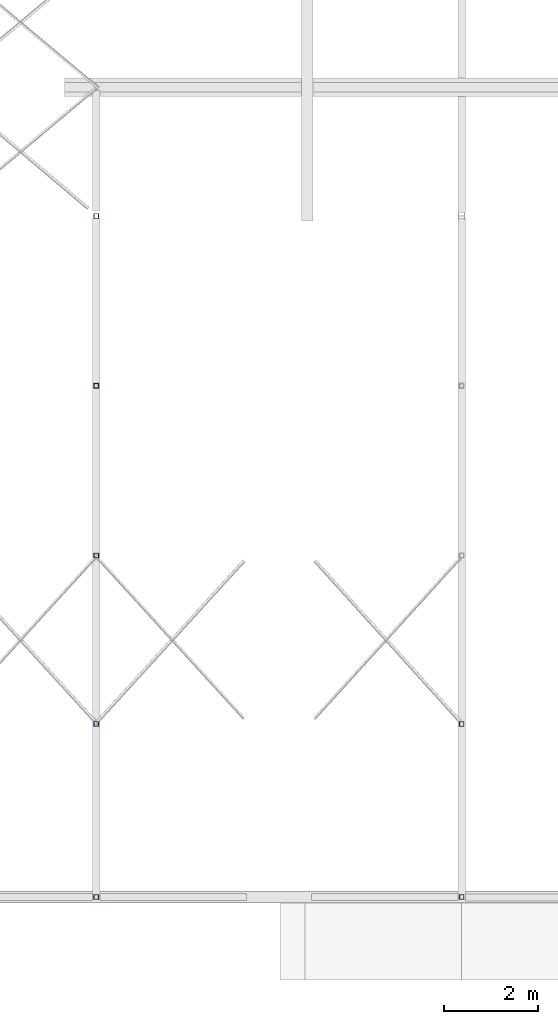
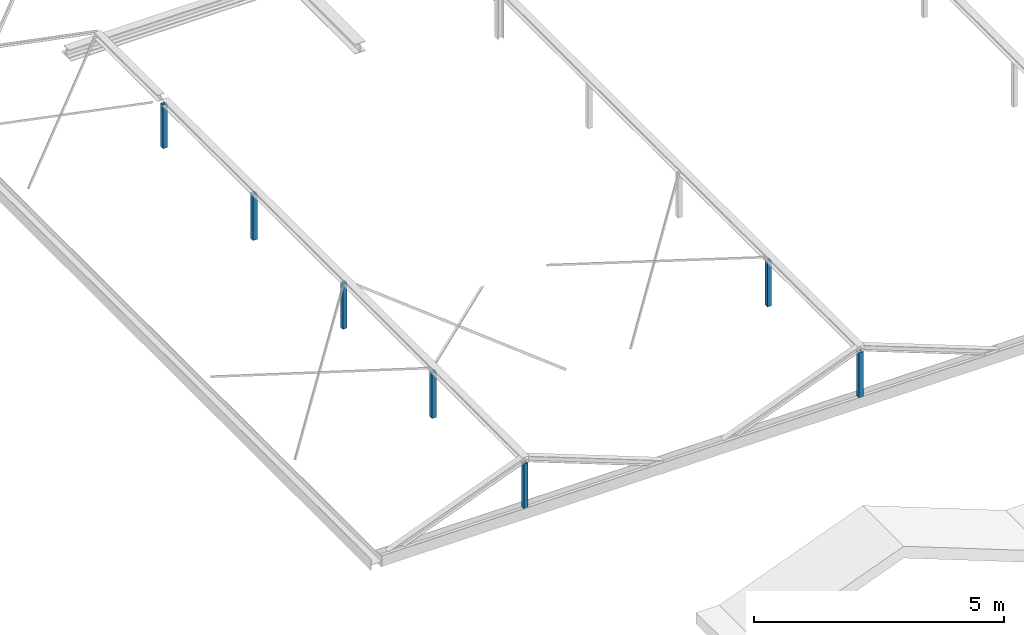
# One storey, part 1 of 10: 7 columns.
"""IFC2X3 building model written with IfcOpenShell, lengths in millimetres."""

from ifc_helpers import new_model, entity, si_unit, converted_unit, derived_unit, direction, frame, origin, place, context, subcontext, project, spatial, polyline, outline, extrude, source, transform, mapped, material, type_object, type_shapes, element, save


model = new_model("IFC2X3")

# Units and contexts
model_context = context("Model", 3, precision=0.01, world=origin(), true_north=direction((6.123031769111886e-17, 1.0)))
body_context = subcontext(model_context, "Body", "Model", "MODEL_VIEW")
ifc_project = project(units=[si_unit("LENGTHUNIT", "METRE", prefix="MILLI"), si_unit("AREAUNIT", "SQUARE_METRE", prefix="MILLI"), si_unit("VOLUMEUNIT", "CUBIC_METRE"), converted_unit("PLANEANGLEUNIT", "DEGREE", entity("IfcPlaneAngleMeasure", 0.017453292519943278), si_unit("PLANEANGLEUNIT", "RADIAN"), dimensions=[0, 0, 0, 0, 0, 0, 0]), si_unit("MASSUNIT", "GRAM", prefix="KILO"), derived_unit("MASSDENSITYUNIT", [(si_unit("MASSUNIT", "GRAM", prefix="KILO"), 1), (si_unit("LENGTHUNIT", "METRE"), -3)]), derived_unit("IONCONCENTRATIONUNIT", [(si_unit("MASSUNIT", "GRAM", prefix="KILO"), 1), (si_unit("LENGTHUNIT", "METRE"), -3)]), derived_unit("MOMENTOFINERTIAUNIT", [(si_unit("LENGTHUNIT", "METRE"), 4)]), si_unit("TIMEUNIT", "SECOND"), si_unit("FREQUENCYUNIT", "HERTZ"), si_unit("THERMODYNAMICTEMPERATUREUNIT", "DEGREE_CELSIUS"), derived_unit("THERMALTRANSMITTANCEUNIT", [(si_unit("MASSUNIT", "GRAM", prefix="KILO"), 1), (si_unit("THERMODYNAMICTEMPERATUREUNIT", "KELVIN"), -1), (si_unit("TIMEUNIT", "SECOND"), -3)]), derived_unit("THERMALCONDUCTANCEUNIT", [(si_unit("MASSUNIT", "GRAM", prefix="KILO"), 1), (si_unit("THERMODYNAMICTEMPERATUREUNIT", "KELVIN"), -1), (si_unit("TIMEUNIT", "SECOND"), -3), (si_unit("LENGTHUNIT", "METRE"), 1)]), derived_unit("VOLUMETRICFLOWRATEUNIT", [(si_unit("LENGTHUNIT", "METRE", prefix="DECI"), 3), (si_unit("TIMEUNIT", "SECOND"), -1)]), derived_unit("MASSFLOWRATEUNIT", [(si_unit("MASSUNIT", "GRAM", prefix="KILO"), 1), (si_unit("TIMEUNIT", "SECOND"), -1)]), derived_unit("ROTATIONALFREQUENCYUNIT", [(si_unit("TIMEUNIT", "SECOND"), -1)]), si_unit("ELECTRICCURRENTUNIT", "AMPERE"), si_unit("ELECTRICVOLTAGEUNIT", "VOLT"), si_unit("POWERUNIT", "WATT"), si_unit("FORCEUNIT", "NEWTON", prefix="KILO"), si_unit("ILLUMINANCEUNIT", "LUX"), si_unit("LUMINOUSFLUXUNIT", "LUMEN"), si_unit("LUMINOUSINTENSITYUNIT", "CANDELA"), si_unit("ENERGYUNIT", "JOULE"), derived_unit("USERDEFINED", [(si_unit("MASSUNIT", "GRAM", prefix="KILO"), -1), (si_unit("LENGTHUNIT", "METRE"), -2), (si_unit("TIMEUNIT", "SECOND"), 3), (si_unit("LUMINOUSFLUXUNIT", "LUMEN"), 1)]), derived_unit("USERDEFINED", [(si_unit("MASSUNIT", "GRAM", prefix="KILO"), 1), (si_unit("TIMEUNIT", "SECOND"), -3), (si_unit("LENGTHUNIT", "METRE"), 3), (si_unit("ELECTRICCURRENTUNIT", "AMPERE"), -2)]), derived_unit("SOUNDPOWERUNIT", [(si_unit("MASSUNIT", "GRAM", prefix="KILO"), 1), (si_unit("TIMEUNIT", "SECOND"), -3), (si_unit("LENGTHUNIT", "METRE"), 2)]), derived_unit("SOUNDPRESSUREUNIT", [(si_unit("MASSUNIT", "GRAM", prefix="KILO"), 1), (si_unit("LENGTHUNIT", "METRE"), -1), (si_unit("TIMEUNIT", "SECOND"), -2)]), derived_unit("LINEARVELOCITYUNIT", [(si_unit("LENGTHUNIT", "METRE"), 1), (si_unit("TIMEUNIT", "SECOND"), -1)]), si_unit("PRESSUREUNIT", "PASCAL"), derived_unit("USERDEFINED", [(si_unit("MASSUNIT", "GRAM", prefix="KILO"), 1), (si_unit("LENGTHUNIT", "METRE"), -2), (si_unit("TIMEUNIT", "SECOND"), -2)]), derived_unit("LINEARFORCEUNIT", [(si_unit("MASSUNIT", "GRAM", prefix="KILO"), 1), (si_unit("TIMEUNIT", "SECOND"), -2)]), derived_unit("PLANARFORCEUNIT", [(si_unit("MASSUNIT", "GRAM", prefix="KILO"), 1), (si_unit("LENGTHUNIT", "METRE"), -1), (si_unit("TIMEUNIT", "SECOND"), -2)]), derived_unit("SPECIFICHEATCAPACITYUNIT", [(si_unit("THERMODYNAMICTEMPERATUREUNIT", "KELVIN"), -1), (si_unit("LENGTHUNIT", "METRE"), 2), (si_unit("TIMEUNIT", "SECOND"), -2)]), derived_unit("HEATFLUXDENSITYUNIT", [(si_unit("MASSUNIT", "GRAM", prefix="KILO"), 1), (si_unit("TIMEUNIT", "SECOND"), -3)]), derived_unit("HEATINGVALUEUNIT", [(si_unit("LENGTHUNIT", "METRE"), 2), (si_unit("TIMEUNIT", "SECOND"), -2)]), derived_unit("VAPORPERMEABILITYUNIT", [(si_unit("LENGTHUNIT", "METRE"), -1), (si_unit("TIMEUNIT", "SECOND"), 1)]), derived_unit("DYNAMICVISCOSITYUNIT", [(si_unit("MASSUNIT", "GRAM", prefix="KILO"), 1), (si_unit("TIMEUNIT", "SECOND"), -1), (si_unit("LENGTHUNIT", "METRE"), -1)]), derived_unit("THERMALEXPANSIONCOEFFICIENTUNIT", [(si_unit("THERMODYNAMICTEMPERATUREUNIT", "KELVIN"), -1)]), derived_unit("MODULUSOFELASTICITYUNIT", [(si_unit("MASSUNIT", "GRAM", prefix="KILO"), 1), (si_unit("LENGTHUNIT", "METRE"), -1), (si_unit("TIMEUNIT", "SECOND"), -2)]), derived_unit("ISOTHERMALMOISTURECAPACITYUNIT", [(si_unit("MASSUNIT", "GRAM", prefix="KILO"), -1), (si_unit("LENGTHUNIT", "METRE"), 3)]), derived_unit("MOISTUREDIFFUSIVITYUNIT", [(si_unit("TIMEUNIT", "SECOND"), -1), (si_unit("LENGTHUNIT", "METRE"), 2)]), derived_unit("MASSPERLENGTHUNIT", [(si_unit("MASSUNIT", "GRAM", prefix="KILO"), 1), (si_unit("LENGTHUNIT", "METRE"), -1)]), derived_unit("THERMALRESISTANCEUNIT", [(si_unit("MASSUNIT", "GRAM", prefix="KILO"), -1), (si_unit("TIMEUNIT", "SECOND"), 3), (si_unit("THERMODYNAMICTEMPERATUREUNIT", "KELVIN"), 1)]), derived_unit("ACCELERATIONUNIT", [(si_unit("LENGTHUNIT", "METRE"), 1), (si_unit("TIMEUNIT", "SECOND"), -2)]), derived_unit("ANGULARVELOCITYUNIT", [(si_unit("TIMEUNIT", "SECOND"), -1), (si_unit("PLANEANGLEUNIT", "RADIAN"), 1)]), derived_unit("LINEARSTIFFNESSUNIT", [(si_unit("MASSUNIT", "GRAM", prefix="KILO"), 1), (si_unit("TIMEUNIT", "SECOND"), -2)]), derived_unit("WARPINGCONSTANTUNIT", [(si_unit("LENGTHUNIT", "METRE"), 6)]), derived_unit("LINEARMOMENTUNIT", [(si_unit("MASSUNIT", "GRAM", prefix="KILO"), 1), (si_unit("LENGTHUNIT", "METRE"), 1), (si_unit("TIMEUNIT", "SECOND"), -2)]), derived_unit("TORQUEUNIT", [(si_unit("MASSUNIT", "GRAM", prefix="KILO"), 1), (si_unit("LENGTHUNIT", "METRE"), 2), (si_unit("TIMEUNIT", "SECOND"), -2)])], contexts=[model_context])

# Site, building, storey
site_placement = place(None, origin())
site = spatial("IfcSite", under=ifc_project, at=site_placement, Name="Default", CompositionType="ELEMENT")
building_placement = place(site_placement, origin())
building = spatial("IfcBuilding", under=site, at=building_placement, CompositionType="ELEMENT")
storey_placement = place(building_placement, frame((0.0, 0.0, 11700.0)))
storey = spatial("IfcBuildingStorey", under=building, at=storey_placement, Name="V4 BK metselwerk", CompositionType="ELEMENT", Elevation=11699.999999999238)

# Columns
ifc_material = material(Name="Metal - Steel - S275 J0H (standaard-kokers/buizen)")
column_type_1 = type_object("IfcColumnType", Name="btk_staal - Koker:K100x100x5.0", PredefinedType="COLUMN", material=ifc_material)
shared_shape_1 = source(origin(), body_context, "Body", "SweptSolid", [
    extrude(outline(polyline([(-50.0, -50.0), (50.0, -50.0), (50.0, 50.0), (-50.0, 50.0), (-50.0, -50.0)]), holes=[polyline([(-45.0, -45.0), (-45.0, 45.0), (45.0, 45.0), (45.0, -45.0), (-45.0, -45.0)])]), frame((10225.896298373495, 17494.605013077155, 10898.0), z_axis=(0.0, 0.0, 1.0), x_axis=(0.0, -1.0, 0.0)), (0.0, 0.0, 1.0), 1059.7062881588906),
])
type_shapes(column_type_1, [shared_shape_1])
column_1_placement = place(storey_placement, frame((0.0, 0.0, -11700.0)))
element("IfcColumn", 1, at=column_1_placement, inside=storey, type_object=column_type_1, material=ifc_material, Name="btk_staal - Koker:K100x100x5.0", ObjectType="btk_staal - Koker:K100x100x5.0", context=body_context, shape_type="MappedRepresentation", body=[
    mapped(shared_shape_1, transform((0.0, 0.0, 0.0), scale=1.0)),
])
column_type_2 = type_object("IfcColumnType", Name="btk_staal - Koker:K100x100x5.0", PredefinedType="COLUMN", material=ifc_material)
shared_shape_2 = source(origin(), body_context, "Body", "SweptSolid", [
    extrude(outline(polyline([(-50.0, -50.0), (50.0, -50.0), (50.0, 50.0), (-50.0, 50.0), (-50.0, -50.0)]), holes=[polyline([(-45.0, -45.0), (-45.0, 45.0), (45.0, 45.0), (45.0, -45.0), (-45.0, -45.0)])]), frame((10225.896298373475, 3047.6050130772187, 10850.0), z_axis=(0.0, 0.0, 1.0), x_axis=(0.0, -1.0, 0.0)), (0.0, 0.0, 1.0), 1107.7062881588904),
])
type_shapes(column_type_2, [shared_shape_2])
column_2_placement = place(storey_placement, frame((0.0, 0.0, -11700.0)))
element("IfcColumn", 2, at=column_2_placement, inside=storey, type_object=column_type_2, material=ifc_material, Name="btk_staal - Koker:K100x100x5.0", ObjectType="btk_staal - Koker:K100x100x5.0", context=body_context, shape_type="MappedRepresentation", body=[
    mapped(shared_shape_2, transform((0.0, 0.0, 0.0), scale=1.0)),
])
column_type_3 = type_object("IfcColumnType", Name="btk_staal - Koker:K100x100x5.0", PredefinedType="COLUMN", material=ifc_material)
shared_shape_3 = source(origin(), body_context, "Body", "SweptSolid", [
    extrude(outline(polyline([(-50.0, -50.0), (50.0, -50.0), (50.0, 50.0), (-50.0, 50.0), (-50.0, -50.0)]), holes=[polyline([(-45.0, -45.0), (-45.0, 45.0), (45.0, 45.0), (45.0, -45.0), (-45.0, -45.0)])]), frame((17974.98614212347, 3047.605013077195, 10850.0), z_axis=(0.0, 0.0, 1.0), x_axis=(0.0, -1.0, 0.0)), (0.0, 0.0, 1.0), 1107.7062881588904),
])
type_shapes(column_type_3, [shared_shape_3])
column_3_placement = place(storey_placement, frame((0.0, 0.0, -11700.0)))
element("IfcColumn", 3, at=column_3_placement, inside=storey, type_object=column_type_3, material=ifc_material, Name="btk_staal - Koker:K100x100x5.0", ObjectType="btk_staal - Koker:K100x100x5.0", context=body_context, shape_type="MappedRepresentation", body=[
    mapped(shared_shape_3, transform((0.0, 0.0, 0.0), scale=1.0)),
])
column_type_4 = type_object("IfcColumnType", Name="btk_staal - Koker:K100x100x5.0", PredefinedType="COLUMN", material=ifc_material)
shared_shape_4 = source(origin(), body_context, "Body", "SweptSolid", [
    extrude(outline(polyline([(-50.0, -50.0), (50.0, -50.0), (50.0, 50.0), (-50.0, 50.0), (-50.0, -50.0)]), holes=[polyline([(-45.0, -45.0), (-45.0, 45.0), (45.0, 45.0), (45.0, -45.0), (-45.0, -45.0)])]), frame((10225.896298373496, 13894.605013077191, 10835.699999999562), z_axis=(0.0, 0.0, 1.0), x_axis=(0.0, -1.0, 0.0)), (0.0, 0.0, 1.0), 1122.0062881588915),
])
type_shapes(column_type_4, [shared_shape_4])
column_4_placement = place(storey_placement, frame((0.0, 0.0, -11700.0)))
element("IfcColumn", 4, at=column_4_placement, inside=storey, type_object=column_type_4, material=ifc_material, Name="btk_staal - Koker:K100x100x5.0", ObjectType="btk_staal - Koker:K100x100x5.0", context=body_context, shape_type="MappedRepresentation", body=[
    mapped(shared_shape_4, transform((0.0, 0.0, 0.0), scale=1.0)),
])
column_type_5 = type_object("IfcColumnType", Name="btk_staal - Koker:K100x100x5.0", PredefinedType="COLUMN", material=ifc_material)
shared_shape_5 = source(origin(), body_context, "Body", "SweptSolid", [
    extrude(outline(polyline([(-50.0, -50.0), (50.0, -50.0), (50.0, 50.0), (-50.0, 50.0), (-50.0, -50.0)]), holes=[polyline([(-45.0, -45.0), (-45.0, 45.0), (45.0, 45.0), (45.0, -45.0), (-45.0, -45.0)])]), frame((10225.896298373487, 10294.605013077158, 10850.0), z_axis=(0.0, 0.0, 1.0), x_axis=(0.0, -1.0, 0.0)), (0.0, 0.0, 1.0), 1107.7062881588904),
])
type_shapes(column_type_5, [shared_shape_5])
column_5_placement = place(storey_placement, frame((0.0, 0.0, -11700.0)))
element("IfcColumn", 5, at=column_5_placement, inside=storey, type_object=column_type_5, material=ifc_material, Name="btk_staal - Koker:K100x100x5.0", ObjectType="btk_staal - Koker:K100x100x5.0", context=body_context, shape_type="MappedRepresentation", body=[
    mapped(shared_shape_5, transform((0.0, 0.0, 0.0), scale=1.0)),
])
column_type_6 = type_object("IfcColumnType", Name="btk_staal - Koker:K100x100x5.0", PredefinedType="COLUMN", material=ifc_material)
shared_shape_6 = source(origin(), body_context, "Body", "SweptSolid", [
    extrude(outline(polyline([(-50.0, -50.0), (50.0, -50.0), (50.0, 50.0), (-50.0, 50.0), (-50.0, -50.0)]), holes=[polyline([(-45.0, -45.0), (-45.0, 45.0), (45.0, 45.0), (45.0, -45.0), (-45.0, -45.0)])]), frame((10225.896298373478, 6719.605013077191, 10835.710937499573), z_axis=(0.0, 0.0, 1.0), x_axis=(0.0, -1.0, 0.0)), (0.0, 0.0, 1.0), 1121.9953506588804),
])
type_shapes(column_type_6, [shared_shape_6])
column_6_placement = place(storey_placement, frame((0.0, 0.0, -11700.0)))
element("IfcColumn", 6, at=column_6_placement, inside=storey, type_object=column_type_6, material=ifc_material, Name="btk_staal - Koker:K100x100x5.0", ObjectType="btk_staal - Koker:K100x100x5.0", context=body_context, shape_type="MappedRepresentation", body=[
    mapped(shared_shape_6, transform((0.0, 0.0, 0.0), scale=1.0)),
])
column_type_7 = type_object("IfcColumnType", Name="btk_staal - Koker:K100x100x5.0", PredefinedType="COLUMN", material=ifc_material)
shared_shape_7 = source(origin(), body_context, "Body", "SweptSolid", [
    extrude(outline(polyline([(-50.0, -50.0), (50.0, -50.0), (50.0, 50.0), (-50.0, 50.0), (-50.0, -50.0)]), holes=[polyline([(-45.0, -45.0), (-45.0, 45.0), (45.0, 45.0), (45.0, -45.0), (-45.0, -45.0)])]), frame((17974.986142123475, 6719.605013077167, 10850.0), z_axis=(0.0, 0.0, 1.0), x_axis=(0.0, -1.0, 0.0)), (0.0, 0.0, 1.0), 1106.9999999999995),
])
type_shapes(column_type_7, [shared_shape_7])
column_7_placement = place(storey_placement, frame((0.0, 0.0, -11700.0)))
element("IfcColumn", 7, at=column_7_placement, inside=storey, type_object=column_type_7, material=ifc_material, Name="btk_staal - Koker:K100x100x5.0", ObjectType="btk_staal - Koker:K100x100x5.0", context=body_context, shape_type="MappedRepresentation", body=[
    mapped(shared_shape_7, transform((0.0, 0.0, 0.0), scale=1.0)),
])

save(model, "model.ifc")
